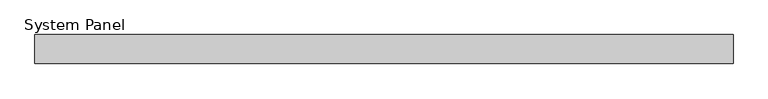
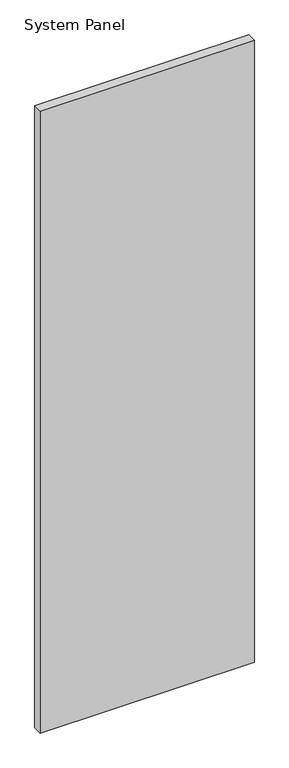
"""IFC4 building model written with IfcOpenShell, lengths in millimetres: plate geometry, System Panel : Equitilt_50mm_Plain_Surfmist."""

from ifc_helpers import new_model, si_unit, origin, origin_with_axes, place, context, project, spatial, polyline, outline, extrude, source, transform, mapped, element, save


def system_panel_b93e07dd(model_context):
    return source(origin(), model_context, "Body", "SweptSolid", [
        extrude(outline(polyline([(600.0, -50.0), (-600.0, -50.0), (-600.0, 0.0), (600.0, 0.0), (600.0, -50.0)])), origin_with_axes(), (0.0, 0.0, 1.0), 3679.9704237),
    ])


if __name__ == "__main__":
    model = new_model("IFC4")
    model_context = context("Model", 3, world=origin())
    ifc_project = project(units=[si_unit("LENGTHUNIT", "METRE", prefix="MILLI")], contexts=[model_context])
    site = spatial("IfcSite", under=ifc_project)
    building = spatial("IfcBuilding", under=site)
    placement = place(None, origin())
    system_panel_shape = system_panel_b93e07dd(model_context)
    element("IfcPlate", 1, ObjectType="System Panel : Equitilt_50mm_Plain_Surfmist", at=placement, inside=building, context=model_context, shape_type="MappedRepresentation", body=[
        mapped(system_panel_shape, transform((0.0, 0.0, 0.0), x_axis=(1.0, 0.0, 0.0), y_axis=(0.0, 1.0, 0.0), z_axis=(0.0, 0.0, 1.0))),
    ])
    save(model, "model.ifc")
